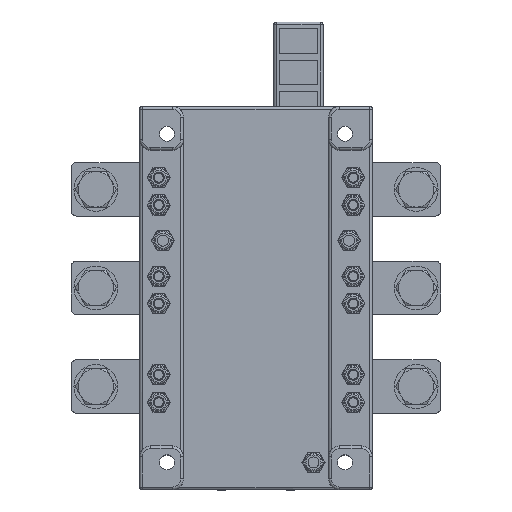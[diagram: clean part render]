
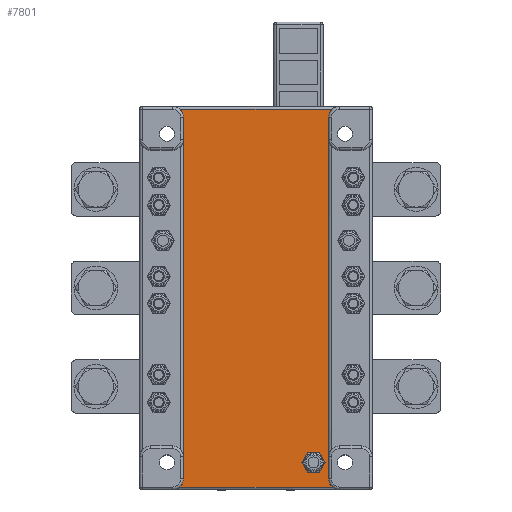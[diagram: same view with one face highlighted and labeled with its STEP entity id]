
A CAD part, top view. The second image highlights one B-rep face of the part: STEP entity #7801.
In plain terms, the highlighted planar face has unit normal (0, 0, 1).
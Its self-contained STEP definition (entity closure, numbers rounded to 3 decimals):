
#40=CARTESIAN_POINT('',(-27.854,169.,6.));
#42=CARTESIAN_POINT('',(-30.5,166.,6.));
#43=DIRECTION('',(0.,0.,-1.));
#44=DIRECTION('',(0.661,0.75,0.));
#45=AXIS2_PLACEMENT_3D('',#42,#43,#44);
#51=DIRECTION('',(-1.,0.,0.));
#52=VECTOR('',#51,55.708);
#53=CARTESIAN_POINT('',(27.854,169.,6.));
#54=LINE('',#53,#52);
#55=CARTESIAN_POINT('',(30.5,166.,6.));
#56=DIRECTION('',(0.,0.,-1.));
#57=DIRECTION('',(-1.,0.,0.));
#58=AXIS2_PLACEMENT_3D('',#55,#56,#57);
#60=CARTESIAN_POINT('',(27.854,169.,6.));
#2185=CARTESIAN_POINT('',(-30.5,34.,6.));
#2186=DIRECTION('',(0.,0.,-1.));
#2187=DIRECTION('',(1.,0.,0.));
#2188=AXIS2_PLACEMENT_3D('',#2185,#2186,#2187);
#2366=DIRECTION('',(0.,1.,0.));
#2367=VECTOR('',#2366,132.);
#2368=CARTESIAN_POINT('',(26.5,34.,6.));
#2369=LINE('',#2368,#2367);
#2370=DIRECTION('',(0.,-1.,0.));
#2371=VECTOR('',#2370,132.);
#2372=CARTESIAN_POINT('',(-26.5,166.,6.));
#2373=LINE('',#2372,#2371);
#2374=DIRECTION('',(-0.5,0.866,0.));
#2375=VECTOR('',#2374,4.25);
#2376=CARTESIAN_POINT('',(25.25,40.,6.));
#2377=LINE('',#2376,#2375);
#2378=DIRECTION('',(-1.,0.,0.));
#2379=VECTOR('',#2378,4.25);
#2380=CARTESIAN_POINT('',(23.125,43.681,6.));
#2381=LINE('',#2380,#2379);
#2382=DIRECTION('',(-0.5,-0.866,0.));
#2383=VECTOR('',#2382,4.25);
#2384=CARTESIAN_POINT('',(18.875,43.681,6.));
#2385=LINE('',#2384,#2383);
#2386=DIRECTION('',(0.5,-0.866,0.));
#2387=VECTOR('',#2386,4.25);
#2388=CARTESIAN_POINT('',(16.75,40.,6.));
#2389=LINE('',#2388,#2387);
#2390=DIRECTION('',(1.,0.,0.));
#2391=VECTOR('',#2390,4.25);
#2392=CARTESIAN_POINT('',(18.875,36.319,6.));
#2393=LINE('',#2392,#2391);
#2394=DIRECTION('',(0.5,0.866,0.));
#2395=VECTOR('',#2394,4.25);
#2396=CARTESIAN_POINT('',(23.125,36.319,6.));
#2397=LINE('',#2396,#2395);
#2635=CARTESIAN_POINT('',(27.854,31.,6.));
#2637=CARTESIAN_POINT('',(30.5,34.,6.));
#2638=DIRECTION('',(0.,0.,-1.));
#2639=DIRECTION('',(-0.661,-0.75,0.));
#2640=AXIS2_PLACEMENT_3D('',#2637,#2638,#2639);
#2642=DIRECTION('',(1.,0.,0.));
#2643=VECTOR('',#2642,55.708);
#2644=CARTESIAN_POINT('',(-27.854,31.,6.));
#2645=LINE('',#2644,#2643);
#3910=CARTESIAN_POINT('',(-26.5,166.,6.));
#3912=VERTEX_POINT('',#3910);
#3935=CARTESIAN_POINT('',(26.5,166.,6.));
#3937=VERTEX_POINT('',#3935);
#4025=VERTEX_POINT('',#60);
#4028=VERTEX_POINT('',#40);
#4740=CARTESIAN_POINT('',(-26.5,34.,6.));
#4741=VERTEX_POINT('',#4740);
#4748=CARTESIAN_POINT('',(26.5,34.,6.));
#4749=VERTEX_POINT('',#4748);
#4752=VERTEX_POINT('',#2635);
#4753=CARTESIAN_POINT('',(-27.854,31.,6.));
#4754=VERTEX_POINT('',#4753);
#4779=CARTESIAN_POINT('',(25.25,40.,6.));
#4780=CARTESIAN_POINT('',(23.125,43.681,6.));
#4781=VERTEX_POINT('',#4779);
#4782=VERTEX_POINT('',#4780);
#4783=CARTESIAN_POINT('',(18.875,43.681,6.));
#4784=VERTEX_POINT('',#4783);
#4785=CARTESIAN_POINT('',(16.75,40.,6.));
#4786=VERTEX_POINT('',#4785);
#4787=CARTESIAN_POINT('',(18.875,36.319,6.));
#4788=VERTEX_POINT('',#4787);
#4789=CARTESIAN_POINT('',(23.125,36.319,6.));
#4790=VERTEX_POINT('',#4789);
#7769=CARTESIAN_POINT('',(0.,0.,6.));
#7770=DIRECTION('',(0.,0.,1.));
#7771=DIRECTION('',(0.,1.,0.));
#7772=AXIS2_PLACEMENT_3D('',#7769,#7770,#7771);
#7773=PLANE('',#7772);
#7775=ORIENTED_EDGE('',*,*,#7774,.F.);
#7777=ORIENTED_EDGE('',*,*,#7776,.F.);
#7779=ORIENTED_EDGE('',*,*,#7778,.F.);
#7780=ORIENTED_EDGE('',*,*,#7524,.F.);
#7781=ORIENTED_EDGE('',*,*,#7754,.F.);
#7782=ORIENTED_EDGE('',*,*,#4915,.F.);
#7783=ORIENTED_EDGE('',*,*,#4932,.F.);
#7784=ORIENTED_EDGE('',*,*,#4948,.F.);
#7785=EDGE_LOOP('',(#7775,#7777,#7779,#7780,#7781,#7782,#7783,#7784));
#7786=FACE_OUTER_BOUND('',#7785,.F.);
#7788=ORIENTED_EDGE('',*,*,#7787,.T.);
#7790=ORIENTED_EDGE('',*,*,#7789,.T.);
#7792=ORIENTED_EDGE('',*,*,#7791,.T.);
#7794=ORIENTED_EDGE('',*,*,#7793,.T.);
#7796=ORIENTED_EDGE('',*,*,#7795,.T.);
#7798=ORIENTED_EDGE('',*,*,#7797,.T.);
#7799=EDGE_LOOP('',(#7788,#7790,#7792,#7794,#7796,#7798));
#7800=FACE_BOUND('',#7799,.F.);
#7801=ADVANCED_FACE('',(#7786,#7800),#7773,.T.);
#46=CIRCLE('',#45,4.);
#59=CIRCLE('',#58,4.);
#2189=CIRCLE('',#2188,4.);
#2641=CIRCLE('',#2640,4.);
#4915=EDGE_CURVE('',#4028,#3912,#46,.T.);
#4932=EDGE_CURVE('',#4025,#4028,#54,.T.);
#4948=EDGE_CURVE('',#3937,#4025,#59,.T.);
#7524=EDGE_CURVE('',#4741,#4754,#2189,.T.);
#7754=EDGE_CURVE('',#3912,#4741,#2373,.T.);
#7774=EDGE_CURVE('',#4749,#3937,#2369,.T.);
#7776=EDGE_CURVE('',#4752,#4749,#2641,.T.);
#7778=EDGE_CURVE('',#4754,#4752,#2645,.T.);
#7787=EDGE_CURVE('',#4781,#4782,#2377,.T.);
#7789=EDGE_CURVE('',#4782,#4784,#2381,.T.);
#7791=EDGE_CURVE('',#4784,#4786,#2385,.T.);
#7793=EDGE_CURVE('',#4786,#4788,#2389,.T.);
#7795=EDGE_CURVE('',#4788,#4790,#2393,.T.);
#7797=EDGE_CURVE('',#4790,#4781,#2397,.T.);
